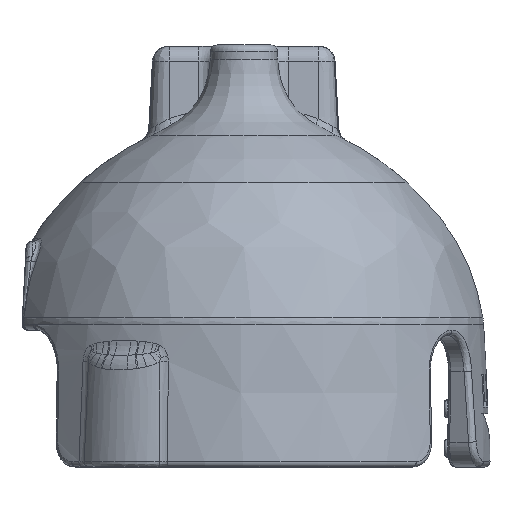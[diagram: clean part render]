
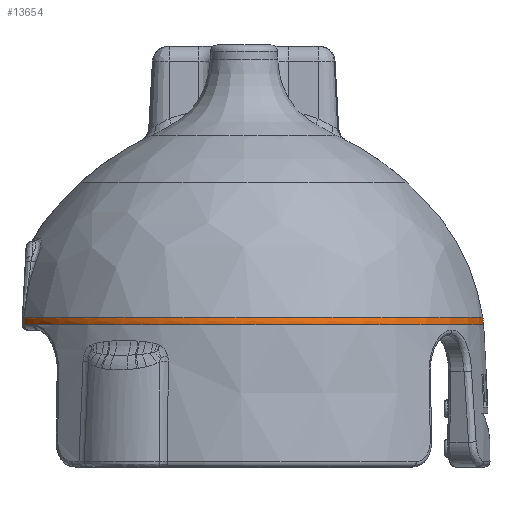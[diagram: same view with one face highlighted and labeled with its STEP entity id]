
A CAD part, left-side view. The second image highlights one B-rep face of the part: STEP entity #13654.
In plain terms, the highlighted toroidal (fillet/blend) face has major radius 13.613 mm and minor radius 5.077 mm.
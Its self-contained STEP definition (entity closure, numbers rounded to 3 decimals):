
#161=ELLIPSE('',#14851,5.697,5.096);
#349=TOROIDAL_SURFACE('',#14848,13.613,5.078);
#2279=CIRCLE('',#14643,3.532);
#2379=CIRCLE('',#14786,18.684);
#2418=CIRCLE('',#14844,4.765);
#2421=CIRCLE('',#14849,18.614);
#2422=CIRCLE('',#14850,18.614);
#2423=CIRCLE('',#14852,18.683);
#3319=FACE_OUTER_BOUND('',#4194,.T.);
#4194=EDGE_LOOP('',(#11985,#11986,#11987,#11988,#11989,#11990,#11991));
#5738=VERTEX_POINT('',#47402);
#5867=VERTEX_POINT('',#54713);
#5868=VERTEX_POINT('',#54820);
#6095=VERTEX_POINT('',#64216);
#6096=VERTEX_POINT('',#64283);
#6097=VERTEX_POINT('',#64285);
#6098=VERTEX_POINT('',#64287);
#7753=EDGE_CURVE('',#5868,#5867,#2279,.T.);
#8008=EDGE_CURVE('',#5738,#5867,#2379,.T.);
#8121=EDGE_CURVE('',#5738,#6095,#2418,.T.);
#8124=EDGE_CURVE('',#6095,#6096,#2421,.T.);
#8125=EDGE_CURVE('',#6096,#6097,#2422,.T.);
#8126=EDGE_CURVE('',#6098,#6097,#161,.T.);
#8127=EDGE_CURVE('',#6098,#5868,#2423,.T.);
#11985=ORIENTED_EDGE('',*,*,#8121,.T.);
#11986=ORIENTED_EDGE('',*,*,#8124,.T.);
#11987=ORIENTED_EDGE('',*,*,#8125,.T.);
#11988=ORIENTED_EDGE('',*,*,#8126,.F.);
#11989=ORIENTED_EDGE('',*,*,#8127,.T.);
#11990=ORIENTED_EDGE('',*,*,#7753,.T.);
#11991=ORIENTED_EDGE('',*,*,#8008,.F.);
#13654=ADVANCED_FACE('',(#3319),#349,.T.);
#14643=AXIS2_PLACEMENT_3D('',#54821,#16889,#16890);
#14786=AXIS2_PLACEMENT_3D('',#61447,#17200,#17201);
#14844=AXIS2_PLACEMENT_3D('',#64278,#17339,#17340);
#14848=AXIS2_PLACEMENT_3D('',#64282,#17347,#17348);
#14849=AXIS2_PLACEMENT_3D('',#64284,#17349,#17350);
#14850=AXIS2_PLACEMENT_3D('',#64286,#17351,#17352);
#14851=AXIS2_PLACEMENT_3D('',#64288,#17353,#17354);
#14852=AXIS2_PLACEMENT_3D('',#64289,#17355,#17356);
#16889=DIRECTION('center_axis',(0.472,0.136,0.871));
#16890=DIRECTION('ref_axis',(-0.143,0.987,-0.077));
#17200=DIRECTION('center_axis',(0.,-1.,0.));
#17201=DIRECTION('ref_axis',(0.932,0.,0.362));
#17339=DIRECTION('center_axis',(-0.02,0.05,
0.999));
#17340=DIRECTION('ref_axis',(0.986,0.166,0.012));
#17347=DIRECTION('center_axis',(0.,1.,0.));
#17348=DIRECTION('ref_axis',(0.005,0.,1.));
#17349=DIRECTION('center_axis',(0.,-1.,0.));
#17350=DIRECTION('ref_axis',(0.932,0.,0.362));
#17351=DIRECTION('center_axis',(0.,-1.,0.));
#17352=DIRECTION('ref_axis',(0.,0.,
1.));
#17353=DIRECTION('center_axis',(0.963,-0.269,0.023));
#17354=DIRECTION('ref_axis',(0.131,0.388,-0.912));
#17355=DIRECTION('center_axis',(0.,1.,0.));
#17356=DIRECTION('ref_axis',(-0.4,0.,-0.916));
#47402=CARTESIAN_POINT('',(-28.586,16.635,8.916));
#54713=CARTESIAN_POINT('',(-55.18,16.635,-14.127));
#54820=CARTESIAN_POINT('',(-54.906,16.649,-14.278));
#54821=CARTESIAN_POINT('Origin',(-54.677,13.15,-13.855));
#61447=CARTESIAN_POINT('Origin',(-46.,16.635,2.146));
#64216=CARTESIAN_POINT('',(-28.648,17.246,8.884));
#64278=CARTESIAN_POINT('Origin',(-33.347,16.457,8.828));
#64282=CARTESIAN_POINT('Origin',(-46.,16.37,2.146));
#64283=CARTESIAN_POINT('',(-46.,17.246,20.76));
#64284=CARTESIAN_POINT('Origin',(-46.,17.246,2.146));
#64285=CARTESIAN_POINT('',(-53.311,17.246,-14.973));
#64286=CARTESIAN_POINT('Origin',(-46.,17.246,2.146));
#64287=CARTESIAN_POINT('',(-53.478,16.649,-14.975));
#64288=CARTESIAN_POINT('Origin',(-53.641,16.549,-9.385));
#64289=CARTESIAN_POINT('Origin',(-46.,16.649,2.146));
